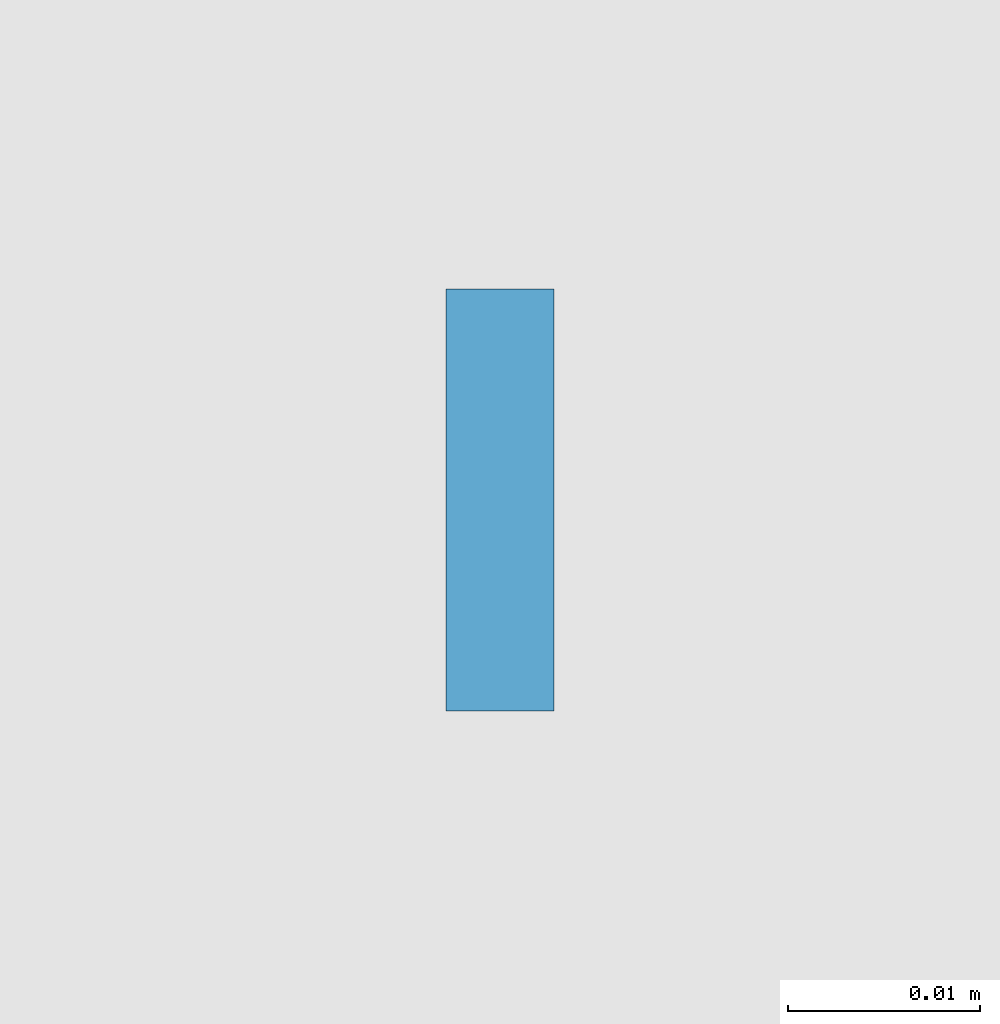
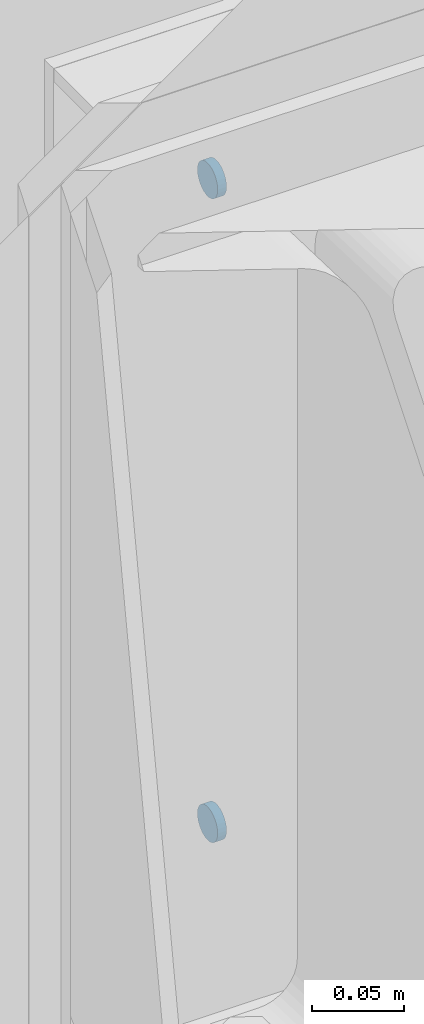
# One storey, part 109 of 123: 2 mechanical fasteners, 1 element without a shape of its own.
"""IFC2X3 building model written with IfcOpenShell, lengths in millimetres."""

from ifc_helpers import new_model, si_unit, frame, origin_with_axes, origin_2d_with_axis, place, context, subcontext, project, spatial, circle, extrude, source, transform, mapped, material, type_object, element, aggregate, save


model = new_model("IFC2X3")

# Units and contexts
model_context = context("Model", 3, precision=1e-05, world=origin_with_axes())
body_context = subcontext(model_context, "Body", "Model", "MODEL_VIEW")
ifc_project = project(units=[si_unit("LENGTHUNIT", "METRE", prefix="MILLI"), si_unit("AREAUNIT", "SQUARE_METRE"), si_unit("VOLUMEUNIT", "CUBIC_METRE"), si_unit("MASSUNIT", "GRAM", prefix="KILO"), si_unit("TIMEUNIT", "SECOND"), si_unit("PLANEANGLEUNIT", "RADIAN"), si_unit("SOLIDANGLEUNIT", "STERADIAN"), si_unit("THERMODYNAMICTEMPERATUREUNIT", "DEGREE_CELSIUS"), si_unit("LUMINOUSINTENSITYUNIT", "LUMEN")], contexts=[model_context])

# Site, building, storey
site_placement = place(None, origin_with_axes())
site = spatial("IfcSite", under=ifc_project, at=site_placement, Name="Undefined", CompositionType="ELEMENT")
building_placement = place(site_placement, origin_with_axes())
building = spatial("IfcBuilding", under=site, at=building_placement, Name="Undefined", CompositionType="ELEMENT")
storey_placement = place(building_placement, origin_with_axes())
storey = spatial("IfcBuildingStorey", under=building, at=storey_placement, Name="Undefined", CompositionType="ELEMENT", Elevation=0.0)

# Assembly, mechanical fasteners
assembly_placement = place(storey_placement, origin_with_axes())
assembly = element("IfcElementAssembly", 1, at=assembly_placement, inside=storey, Name="Steel Assembly", AssemblyPlace="NOTDEFINED", PredefinedType="RIGID_FRAME")
ifc_material = material(Name="6.8")
discrete_accessory_type = type_object("IfcDiscreteAccessoryType", Name="Bolt assembly")
shared_shape = source(origin_with_axes(), body_context, "Body", "SweptSolid", [
    extrude(circle(Radius=11.0, at=origin_2d_with_axis()), frame((0.0, -2.75000000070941, 0.0), z_axis=(0.0, 1.0, 0.0), x_axis=(1.0, 0.0, 0.0)), (0.0, 0.0, 1.0), 5.6),
])
mechanical_fastener_1_placement = place(assembly_placement, frame((28880.0000000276, 15452.0000000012, 7084.99732627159), z_axis=(0.0, 0.0, 1.0), x_axis=(0.0, -1.0, 0.0)))
mechanical_fastener_1 = element("IfcMechanicalFastener", 2, at=mechanical_fastener_1_placement, type_object=discrete_accessory_type, material=ifc_material, Name="Bolt assembly", NominalDiameter=20.0, NominalLength=5.5, context=body_context, shape_type="MappedRepresentation", body=[
    mapped(shared_shape, transform((0.0, 0.0, 0.0))),
])
mechanical_fastener_2_placement = place(assembly_placement, frame((28880.0000000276, 15452.0000000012, 7509.99732627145), z_axis=(0.0, 0.0, 1.0), x_axis=(0.0, -1.0, 0.0)))
mechanical_fastener_2 = element("IfcMechanicalFastener", 3, at=mechanical_fastener_2_placement, type_object=discrete_accessory_type, material=ifc_material, Name="Bolt assembly", NominalDiameter=20.0, NominalLength=5.5, context=body_context, shape_type="MappedRepresentation", body=[
    mapped(shared_shape, transform((0.0, 0.0, 0.0))),
])
aggregate(assembly, [mechanical_fastener_1, mechanical_fastener_2])

save(model, "model.ifc")
